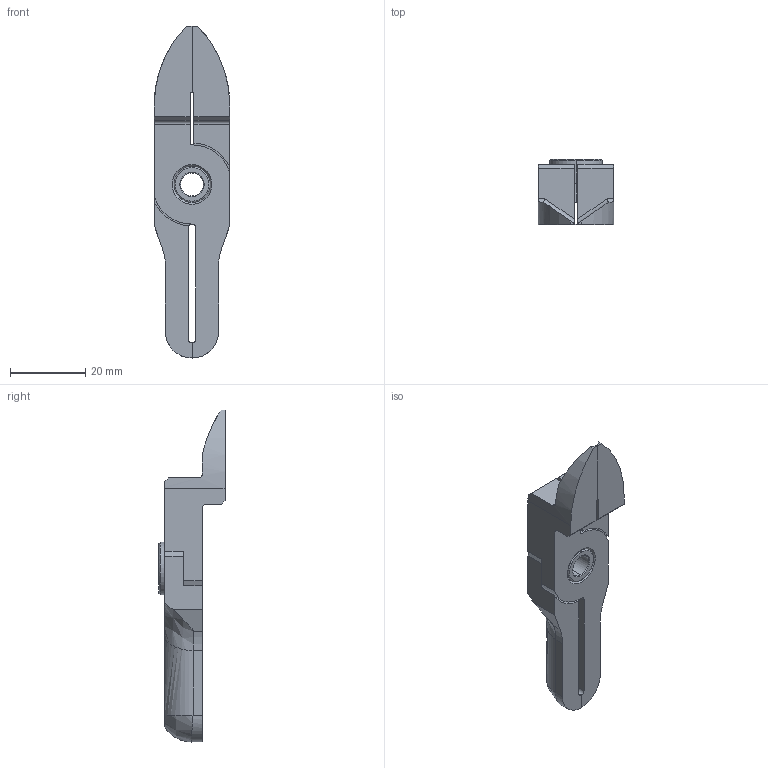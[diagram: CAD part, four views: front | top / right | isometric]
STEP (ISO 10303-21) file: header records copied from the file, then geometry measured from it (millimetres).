
FILE_DESCRIPTION (( 'STEP AP214' ), '1' );
FILE_NAME ('NY25RAH.STEP', '2019-11-28T05:20:22', ( '微软用户' ), ( '微软中国' ), 'SwSTEP 2.0', 'SolidWorks 2016', '' );
FILE_SCHEMA (( 'AUTOMOTIVE_DESIGN' ));
Length unit declared in the file: millimetre
Products named in the file (4): BR2; BR1; BS; NY25RAH
Assembly tree (3 placements, depth 2):
  NY25RAH
    BS
    BR1
    BR2
Bounding box: 20 x 17.5 x 88 mm (x, y, z)
Volume: 11497.4 mm3; surface area: 7752.3 mm2
Topology: 3 solids, 3 shells, 127 faces, 336 edges, 216 vertices
Faces by surface type: plane 47, cylinder 35, cone 22, bspline 19, torus 4
Entity records: 4394 total; most frequent: CARTESIAN_POINT 1244, ORIENTED_EDGE 664, DIRECTION 596, EDGE_CURVE 332, VERTEX_POINT 216, AXIS2_PLACEMENT_3D 215, LINE 166, VECTOR 166
